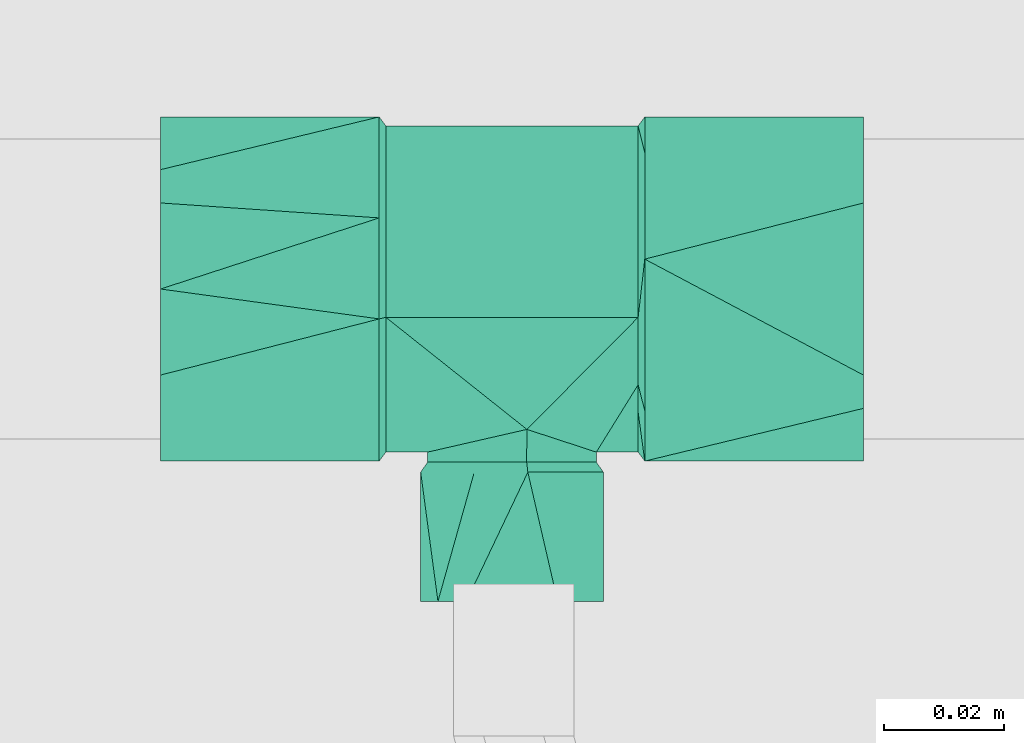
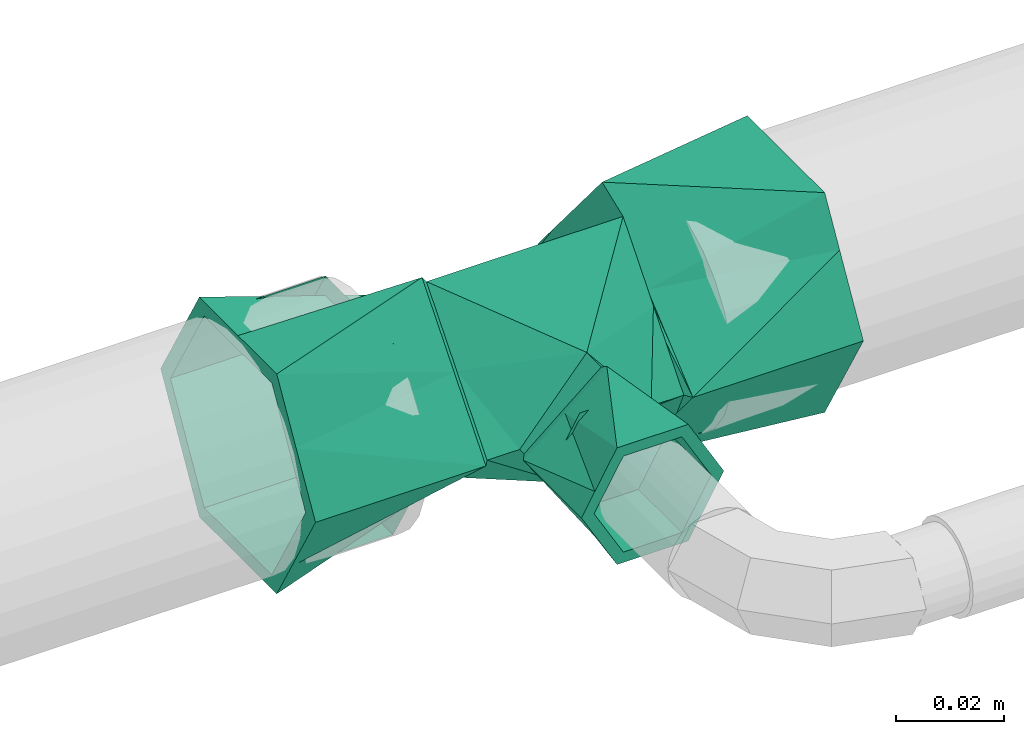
# One storey, part 100 of 166: 1 flow fitting.
"""IFC2X3 building model written with IfcOpenShell, lengths in metres."""

from ifc_helpers import new_model, entity, si_unit, converted_unit, direction, frame, origin, place, context, subcontext, project, spatial, faceted_brep, source, transform, mapped, material, type_object, type_shapes, element, save


model = new_model("IFC2X3")

# Units and contexts
model_context = context("Model", 3, precision=1e-05, world=origin(), true_north=direction((6.123233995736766e-17, 1.0)))
body_context = subcontext(model_context, "Body", "Model", "MODEL_VIEW")
ifc_project = project(units=[si_unit("LENGTHUNIT", "METRE"), converted_unit("PLANEANGLEUNIT", "DEGREE", entity("IfcPlaneAngleMeasure", 0.017453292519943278), si_unit("PLANEANGLEUNIT", "RADIAN"), dimensions=[0, 0, 0, 0, 0, 0, 0]), si_unit("AREAUNIT", "SQUARE_METRE")], contexts=[model_context])

# Site, building, storey
site_placement = place(None, origin())
site = spatial("IfcSite", under=ifc_project, at=site_placement, Name="Default", CompositionType="ELEMENT")
building_placement = place(site_placement, origin())
building = spatial("IfcBuilding", under=site, at=building_placement, Name="CASA DE ACOLHIDA PARA IDOSOS", CompositionType="ELEMENT")
storey_placement = place(building_placement, frame((0.0, 0.0, -1.7499999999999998)))
storey = spatial("IfcBuildingStorey", under=building, at=storey_placement, Name="IMPLANTAÇÃO DRENAGEM", CompositionType="ELEMENT", Elevation=-1.7499999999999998)

# Flow fitting
ifc_material = material(Name="PVC Branco")
pipe_fitting_type = type_object("IfcPipeFittingType", Name="AF_Roscavel_Te_Reducao:Standard", PredefinedType="NOTDEFINED", material=ifc_material)
shared_shape = source(origin(), body_context, "Body", "Brep", [
    faceted_brep([(-0.022099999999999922, 0.022730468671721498, -0.007053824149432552), (-0.022099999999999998, 0.028649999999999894, 0.0), (-0.021, 0.027149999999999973, 0.0), (-0.02099999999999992, 0.019184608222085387, -0.006684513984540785), (-0.020999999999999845, 0.011219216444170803, -0.013369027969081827), (-0.022099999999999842, 0.0168109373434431, -0.014107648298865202), (-0.020999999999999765, 0.0032538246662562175, -0.02005354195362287), (-0.022099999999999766, 0.010891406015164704, -0.02116147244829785), (-0.020999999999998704, -0.015930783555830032, -0.013369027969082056), (-0.022099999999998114, -0.020244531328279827, -0.007053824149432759), (-0.022099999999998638, -0.01183906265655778, -0.01410764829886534), (-0.020999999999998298, -0.02051095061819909, -0.007911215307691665), (-0.02209999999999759, -0.02865000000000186, 0.0), (-0.020999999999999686, -0.004711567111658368, -0.02673805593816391), (-0.02209999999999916, -0.0034335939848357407, -0.021161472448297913), (-0.022099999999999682, 0.004971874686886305, -0.028215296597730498), (-0.020999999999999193, -0.010321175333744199, -0.02005354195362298), (-0.02099999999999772, -0.027150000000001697, 0.0), (-0.02210000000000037, -0.022732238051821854, 0.007053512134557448), (-0.021000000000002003, -0.019182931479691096, 0.006684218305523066), (-0.021000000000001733, -0.011215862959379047, 0.013368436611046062), (-0.022100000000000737, -0.0168144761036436, 0.014107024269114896), (-0.021000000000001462, -0.0032487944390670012, 0.020052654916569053), (-0.022100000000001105, -0.010896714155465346, 0.021160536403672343), (-0.022100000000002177, 0.020242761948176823, 0.007053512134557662), (-0.02100000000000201, 0.021542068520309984, 0.006684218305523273), (-0.022100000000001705, 0.0034282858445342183, 0.021160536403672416), (-0.021000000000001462, 0.010326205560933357, 0.020052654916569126), (-0.022100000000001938, 0.01183552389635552, 0.014107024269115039), (-0.021000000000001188, 0.004718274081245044, 0.02673687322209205), (-0.022100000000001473, -0.004978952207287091, 0.028214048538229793), (-0.021000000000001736, 0.01593413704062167, 0.013368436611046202), (-0.02099999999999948, 0.018449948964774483, 0.010369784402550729), (0.021, 0.027149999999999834, 0.0), (0.021000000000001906, 0.004718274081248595, 0.026736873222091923), (0.021000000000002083, 0.010326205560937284, 0.02005265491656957), (0.021000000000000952, 0.015934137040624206, 0.013368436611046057), (0.021000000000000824, 0.020511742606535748, 0.007912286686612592), (0.021, -0.027150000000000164, 0.0), (0.0024774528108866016, -0.023369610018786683, 0.013819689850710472), (0.008258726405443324, -0.025259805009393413, 0.006909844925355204), (0.014040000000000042, -0.027150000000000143, 0.0), (-0.014039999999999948, -0.02715000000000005, 0.0), (-0.008913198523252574, -0.02597661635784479, 0.004289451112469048), (-0.0057812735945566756, -0.02525980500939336, 0.0069098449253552), (0.021000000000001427, -0.01918293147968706, 0.006684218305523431), (0.021000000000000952, -0.011215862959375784, 0.013368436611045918), (0.02100000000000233, -0.00324879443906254, 0.020052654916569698), (0.02099999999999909, 0.019607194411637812, -0.006329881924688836), (0.020999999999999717, 0.011219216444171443, -0.013369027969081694), (0.02099999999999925, 0.003253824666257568, -0.02005354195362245), (0.020999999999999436, -0.004711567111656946, -0.02673805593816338), (-0.0024814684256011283, -0.023370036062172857, -0.013818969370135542), (0.020999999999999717, -0.015930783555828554, -0.013369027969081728), (0.008912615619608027, -0.025976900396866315, -0.004288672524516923), (0.005779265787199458, -0.025260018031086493, -0.006909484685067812), (-0.00826073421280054, -0.025260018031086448, -0.006909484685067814), (0.020999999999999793, -0.020510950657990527, -0.007911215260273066), (0.020999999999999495, -0.010321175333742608, -0.020053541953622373), (0.02210000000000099, 0.01681093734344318, 0.014107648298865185), (0.022100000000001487, 0.01089140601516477, 0.021161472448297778), (0.022100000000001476, -0.012730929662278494, 0.013359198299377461), (0.022100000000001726, -0.003879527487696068, 0.020787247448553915), (0.022100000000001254, -0.020690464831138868, 0.006679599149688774), (0.022100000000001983, 0.004971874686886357, 0.02821529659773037), (0.0221, 0.028650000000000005, 0.0), (0.022100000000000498, 0.022730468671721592, 0.007053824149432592), (0.022100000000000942, -0.011839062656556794, 0.014107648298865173), (0.022100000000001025, -0.02864999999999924, 0.0), (0.022099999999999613, -0.009809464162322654, -0.022456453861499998), (0.022099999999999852, -0.021644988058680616, -0.008349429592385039), (0.02209999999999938, 0.0034282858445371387, -0.02116053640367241), (0.022099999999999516, -0.004978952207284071, -0.028214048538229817), (0.02209999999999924, 0.011835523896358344, -0.014107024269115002), (0.0220999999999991, 0.02024276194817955, -0.0070535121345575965), (0.02209999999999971, -0.014639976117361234, -0.01669885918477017), (0.022100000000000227, -0.016814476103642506, -0.014107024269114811), (-0.058500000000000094, -0.014325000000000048, -0.024811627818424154), (-0.058500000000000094, -0.025, 0.0), (-0.058500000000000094, -0.01997114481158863, -0.00871023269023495), (-0.0585000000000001, -0.019870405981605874, -0.015206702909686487), (-0.058500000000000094, -0.012500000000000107, -0.021650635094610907), (-0.058500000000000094, 0.0, -0.02165063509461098), (-0.058500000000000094, 0.012499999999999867, -0.021650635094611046), (-0.0585000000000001, 0.0, -0.024811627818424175), (-0.058500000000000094, -0.028650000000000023, 0.0), (-0.0585000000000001, -0.018750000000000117, 0.01082531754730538), (-0.058500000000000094, -0.012500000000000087, 0.021650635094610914), (-0.0585000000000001, -0.021487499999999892, 0.012405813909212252), (-0.058500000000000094, -0.014324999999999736, 0.02481162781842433), (-0.058500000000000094, 0.0, 0.021650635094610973), (-0.058500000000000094, 0.012499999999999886, 0.021650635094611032), (-0.0585000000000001, 0.0, 0.02481162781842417), (-0.058500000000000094, 0.014325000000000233, 0.024811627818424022), (-0.0585000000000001, 0.019870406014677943, 0.015206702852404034), (-0.058500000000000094, 0.02864999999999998, 0.0), (-0.058500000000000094, 0.019971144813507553, 0.00871023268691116), (-0.058500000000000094, 0.025, 0.0), (-0.0585000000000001, 0.021487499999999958, -0.012405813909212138), (-0.058500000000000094, 0.014324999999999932, -0.0248116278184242), (-0.058500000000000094, 0.018749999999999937, -0.010825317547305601), (0.0585000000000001, 0.021487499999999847, 0.012405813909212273), (0.058500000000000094, 0.028650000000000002, 0.0), (0.058500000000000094, -0.028650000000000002, 0.0), (0.0585000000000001, -0.01987040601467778, 0.015206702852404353), (0.0585000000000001, -0.021487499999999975, -0.012405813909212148), (0.0585000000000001, 0.019870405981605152, -0.015206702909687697), (0.058500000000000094, 0.014325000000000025, -0.024811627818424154), (0.058500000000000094, 0.024999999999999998, 0.0), (0.058500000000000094, 0.019971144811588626, -0.00871023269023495), (0.058500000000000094, 0.012500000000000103, -0.021650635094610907), (0.058500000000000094, 0.0, -0.02165063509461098), (0.058500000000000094, -0.012499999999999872, -0.021650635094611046), (0.0585000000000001, 0.0, -0.024811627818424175), (0.0585000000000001, 0.01875000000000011, 0.01082531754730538), (0.058500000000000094, 0.012500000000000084, 0.021650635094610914), (0.058500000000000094, 0.014324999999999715, 0.02481162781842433), (0.058500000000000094, 0.0, 0.021650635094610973), (0.058500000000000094, -0.012499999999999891, 0.021650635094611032), (0.0585000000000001, 0.0, 0.02481162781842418), (0.058500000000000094, -0.014325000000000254, 0.024811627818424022), (0.058500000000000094, -0.019971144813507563, 0.00871023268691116), (0.058500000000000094, -0.025000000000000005, 0.0), (0.058500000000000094, -0.014324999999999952, -0.0248116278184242), (0.058500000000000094, -0.018749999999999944, -0.010825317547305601), (-0.032600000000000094, -0.025, 0.0), (-0.032600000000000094, -0.019971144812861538, 0.00871023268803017), (-0.032600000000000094, -0.012500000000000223, 0.021650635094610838), (-0.032600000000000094, 0.0, 0.021650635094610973), (-0.032600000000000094, 0.012499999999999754, 0.02165063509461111), (-0.032600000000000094, 0.018749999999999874, 0.010825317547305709), (-0.032600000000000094, 0.025, 0.0), (-0.032600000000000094, 0.019971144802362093, -0.008710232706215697), (-0.032600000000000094, 0.012500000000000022, -0.021650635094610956), (-0.032600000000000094, 0.0, -0.02165063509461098), (-0.032600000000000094, -0.012499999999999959, -0.021650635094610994), (-0.032600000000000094, -0.018749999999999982, -0.010825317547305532), (0.03260000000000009, -0.025, 0.0), (0.032600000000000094, -0.018749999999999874, 0.010825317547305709), (0.032600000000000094, -0.012499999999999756, 0.02165063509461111), (0.032600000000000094, 0.0, 0.021650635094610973), (0.032600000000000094, 0.012500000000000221, 0.021650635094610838), (0.032600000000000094, 0.019971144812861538, 0.00871023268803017), (0.032600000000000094, 0.025, 0.0), (0.032600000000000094, 0.018749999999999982, -0.010825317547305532), (0.032600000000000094, 0.012499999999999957, -0.021650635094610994), (0.032600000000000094, 0.0, -0.02165063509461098), (0.032600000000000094, -0.012500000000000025, -0.021650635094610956), (0.032600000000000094, -0.019971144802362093, -0.008710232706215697), (0.012500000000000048, -0.03589999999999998, 0.0), (0.006250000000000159, -0.035899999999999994, 0.010825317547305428), (-0.0062499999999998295, -0.03590000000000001, 0.010825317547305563), (-0.012499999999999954, -0.03590000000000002, 0.0), (-0.006249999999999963, -0.03590000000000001, -0.010825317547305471), (0.006250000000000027, -0.035899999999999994, -0.01082531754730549), (0.012500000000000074, -0.05199999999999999, 0.0), (0.006250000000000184, -0.052, 0.010825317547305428), (-0.006249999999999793, -0.05200000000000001, 0.01082531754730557), (-0.01249999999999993, -0.052000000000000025, 0.0), (-0.006249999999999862, -0.05200000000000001, -0.010825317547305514), (0.006250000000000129, -0.052, -0.010825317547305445), (-0.011620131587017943, -0.028800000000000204, -0.0028835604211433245), (-0.01403999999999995, -0.02880000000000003, 0.0), (-0.002436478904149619, -0.028800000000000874, -0.013826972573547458), (-0.008238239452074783, -0.02880000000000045, -0.006913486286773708), (0.0030428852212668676, -0.028800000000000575, -0.009228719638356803), (0.014040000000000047, -0.02879999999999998, 0.0), (0.008541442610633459, -0.02880000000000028, -0.004614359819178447), (0.005801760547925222, -0.02880000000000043, -0.006913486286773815), (0.011620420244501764, -0.028799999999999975, 0.002883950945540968), (0.002439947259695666, -0.028799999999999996, 0.01382636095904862), (0.008239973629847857, -0.028799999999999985, 0.00691318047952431), (-0.0030421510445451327, -0.028800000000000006, 0.00922698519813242), (-0.008541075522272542, -0.028800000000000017, 0.004613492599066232), (-0.005800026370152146, -0.028800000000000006, 0.006913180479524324), (0.0026415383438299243, -0.030500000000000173, 0.01496870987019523), (0.008920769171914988, -0.03050000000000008, 0.007484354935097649), (0.010065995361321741, -0.030500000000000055, 0.006119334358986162), (0.015200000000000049, -0.03049999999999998, 0.0), (-0.015199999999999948, -0.03050000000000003, 0.0), (-0.006279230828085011, -0.0305000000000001, 0.007484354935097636), (-0.0026377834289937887, -0.030500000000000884, -0.01496937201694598), (-0.008918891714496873, -0.03050000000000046, -0.007484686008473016), (-0.010065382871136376, -0.030500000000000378, -0.006118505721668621), (0.006281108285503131, -0.03050000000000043, -0.007484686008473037), (0.007600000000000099, -0.052, -0.01316358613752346), (0.012327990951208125, -0.05199999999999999, -0.004974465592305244), (0.0, -0.052000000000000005, -0.01316358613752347), (0.015200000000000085, -0.051999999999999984, 0.0), (0.011400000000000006, -0.05199999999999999, 0.00658179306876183), (0.007599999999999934, -0.052, 0.013163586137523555), (0.0, -0.052000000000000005, 0.013163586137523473), (-0.007600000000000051, -0.05200000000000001, 0.01316358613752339), (-0.012327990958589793, -0.052000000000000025, 0.00497446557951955), (-0.015199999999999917, -0.05200000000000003, 0.0), (-0.011399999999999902, -0.052000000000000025, -0.006581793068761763), (-0.007599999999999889, -0.05200000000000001, -0.013163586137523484)], [[[0, 1, 2]], [[3, 4, 5]], [[6, 7, 4]], [[8, 9, 10]], [[11, 12, 9]], [[13, 14, 15]], [[14, 16, 10]], [[16, 14, 13]], [[2, 3, 0]], [[9, 8, 11]], [[11, 17, 12]], [[7, 6, 15]], [[6, 13, 15]], [[5, 4, 7]], [[16, 8, 10]], [[3, 5, 0]], [[18, 12, 17]], [[19, 20, 21]], [[22, 23, 20]], [[1, 24, 25]], [[25, 2, 1]], [[26, 27, 28]], [[29, 26, 30]], [[27, 26, 29]], [[17, 19, 18]], [[23, 22, 30]], [[24, 28, 31]], [[22, 29, 30]], [[21, 20, 23]], [[27, 31, 28]], [[19, 21, 18]], [[24, 31, 32, 25]], [[33, 2, 25, 32, 31, 27, 29, 34, 35, 36, 37]], [[38, 39, 40, 41]], [[20, 42, 43, 44, 39]], [[39, 38, 45, 46]], [[20, 39, 46]], [[34, 29, 22, 20, 46, 47]], [[42, 20, 19, 17]], [[4, 3, 2, 33, 48, 49, 50, 51, 13, 6]], [[51, 52, 13]], [[53, 41, 54, 55, 52]], [[8, 52, 56, 42]], [[42, 17, 11, 8]], [[41, 53, 57, 38]], [[52, 51, 58, 53]], [[52, 8, 16, 13]], [[36, 35, 59, 37]], [[34, 60, 35]], [[46, 45, 61]], [[47, 46, 62]], [[38, 63, 45]], [[64, 34, 47]], [[65, 33, 66]], [[60, 34, 64]], [[46, 61, 67, 62]], [[64, 47, 62]], [[33, 37, 66]], [[37, 59, 66]], [[63, 38, 68]], [[63, 61, 45]], [[60, 59, 35]], [[51, 69, 58]], [[68, 38, 70]], [[51, 71, 72]], [[73, 49, 74]], [[75, 53, 58]], [[33, 65, 48]], [[50, 73, 71]], [[53, 75, 76, 70]], [[48, 74, 49]], [[73, 50, 49]], [[51, 50, 71]], [[38, 57, 53, 70]], [[48, 65, 74]], [[69, 51, 72]], [[69, 75, 58]], [[77, 78, 79]], [[78, 77, 80]], [[77, 79, 81]], [[77, 81, 82]], [[77, 82, 83]], [[83, 84, 77]], [[78, 80, 85]], [[85, 86, 78]], [[85, 87, 86]], [[87, 85, 88]], [[87, 88, 89]], [[89, 90, 87]], [[89, 91, 90]], [[91, 89, 92]], [[91, 92, 93]], [[91, 93, 94]], [[91, 94, 95]], [[95, 96, 91]], [[95, 97, 96]], [[97, 95, 98]], [[97, 98, 99]], [[99, 83, 100]], [[83, 99, 84]], [[99, 100, 97]], [[28, 94, 93]], [[94, 28, 24, 1]], [[1, 95, 94]], [[65, 101, 102]], [[12, 88, 85]], [[68, 103, 104]], [[89, 21, 23, 30]], [[21, 89, 88]], [[88, 12, 18, 21]], [[92, 30, 26, 28]], [[30, 92, 89]], [[28, 93, 92]], [[10, 80, 77]], [[80, 10, 9, 12]], [[12, 85, 80]], [[68, 105, 103]], [[1, 98, 95]], [[65, 102, 106]], [[99, 5, 7, 15]], [[5, 99, 98]], [[98, 1, 0, 5]], [[15, 77, 84, 99]], [[77, 15, 14, 10]], [[107, 108, 109]], [[108, 107, 106]], [[107, 109, 110]], [[107, 110, 111]], [[107, 111, 112]], [[112, 113, 107]], [[108, 106, 102]], [[102, 114, 108]], [[102, 115, 114]], [[115, 102, 101]], [[115, 101, 116]], [[116, 117, 115]], [[116, 118, 117]], [[118, 116, 119]], [[118, 119, 120]], [[118, 120, 104]], [[118, 104, 103]], [[103, 121, 118]], [[103, 122, 121]], [[122, 103, 105]], [[122, 105, 123]], [[123, 112, 124]], [[112, 123, 113]], [[123, 124, 122]], [[67, 104, 120]], [[104, 67, 61, 63, 68]], [[116, 59, 60, 64]], [[59, 116, 101]], [[101, 65, 66, 59]], [[64, 120, 119, 116]], [[120, 64, 62, 67]], [[73, 106, 107]], [[106, 73, 74, 65]], [[123, 76, 75, 69, 72]], [[76, 123, 105]], [[105, 68, 70, 76]], [[113, 72, 71, 73]], [[72, 113, 123]], [[73, 107, 113]], [[125, 126, 127, 128, 129, 130, 131, 132, 133, 134, 135, 136]], [[87, 127, 126, 125, 78, 86]], [[137, 138, 139, 118, 121, 122]], [[129, 128, 127, 87, 90, 91]], [[139, 140, 141, 115, 117, 118]], [[131, 130, 129, 91, 96, 97]], [[115, 141, 142, 143, 108, 114]], [[83, 133, 132, 131, 97, 100]], [[143, 144, 145, 110, 109, 108]], [[135, 134, 133, 83, 82, 81]], [[145, 146, 147, 112, 111, 110]], [[125, 136, 135, 81, 79, 78]], [[112, 147, 148, 137, 122, 124]], [[143, 142, 141, 140, 139, 138, 137, 148, 147, 146, 145, 144]], [[149, 150, 151, 152, 153, 154]], [[155, 156, 150, 149]], [[156, 157, 151, 150]], [[157, 158, 152, 151]], [[158, 159, 153, 152]], [[159, 160, 154, 153]], [[160, 155, 149, 154]], [[42, 161, 162]], [[56, 163, 164, 161]], [[163, 56, 52]], [[165, 163, 52]], [[166, 167, 41]], [[55, 167, 168, 165]], [[55, 54, 41, 167]], [[165, 52, 55]], [[56, 161, 42]], [[41, 169, 166]], [[40, 170, 171, 169]], [[170, 40, 39]], [[172, 170, 39]], [[162, 173, 42]], [[44, 173, 174, 172]], [[44, 43, 42, 173]], [[172, 39, 44]], [[40, 169, 41]], [[175, 176, 177, 178, 166, 169, 171, 170]], [[170, 172, 174, 173, 162, 179, 180, 175]], [[181, 182, 183, 179, 162, 161, 164, 163]], [[163, 165, 168, 167, 166, 178, 184, 181]], [[185, 155, 160]], [[155, 185, 186]], [[185, 160, 159]], [[159, 187, 185]], [[155, 186, 188]], [[156, 155, 188]], [[156, 188, 189]], [[156, 189, 190]], [[156, 190, 157]], [[157, 190, 191]], [[157, 191, 192]], [[157, 192, 193]], [[157, 193, 194]], [[194, 158, 157]], [[158, 194, 195]], [[158, 195, 196]], [[196, 159, 158]], [[159, 196, 187]], [[180, 193, 192]], [[180, 179, 193]], [[179, 194, 193]], [[178, 189, 188]], [[175, 190, 176]], [[176, 190, 189]], [[189, 178, 177, 176]], [[180, 191, 175]], [[175, 191, 190]], [[180, 192, 191]], [[184, 186, 185]], [[184, 178, 186]], [[178, 188, 186]], [[179, 195, 194]], [[181, 196, 182]], [[182, 196, 195]], [[195, 179, 183, 182]], [[181, 185, 187, 196]], [[181, 184, 185]]]),
])
type_shapes(pipe_fitting_type, [shared_shape])
flow_fitting_placement = place(storey_placement, frame((-31.99094889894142, 36.05494207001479, -0.19999999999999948), z_axis=(0.0, 0.0, -1.0), x_axis=(-1.0, 0.0, 0.0)))
element("IfcFlowFitting", 1, at=flow_fitting_placement, inside=storey, type_object=pipe_fitting_type, material=ifc_material, Name="AF_Roscavel_Te_Reducao:Standard", ObjectType="AF_Roscavel_Te_Reducao:Standard", context=body_context, shape_type="MappedRepresentation", body=[
    mapped(shared_shape, transform((0.0, 0.0, 0.0), scale=1.0)),
])

save(model, "model.ifc")
